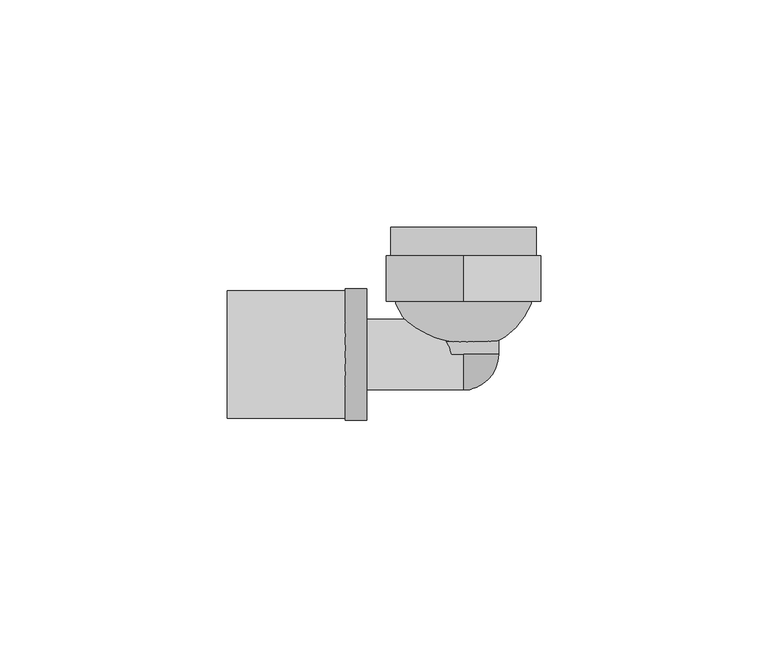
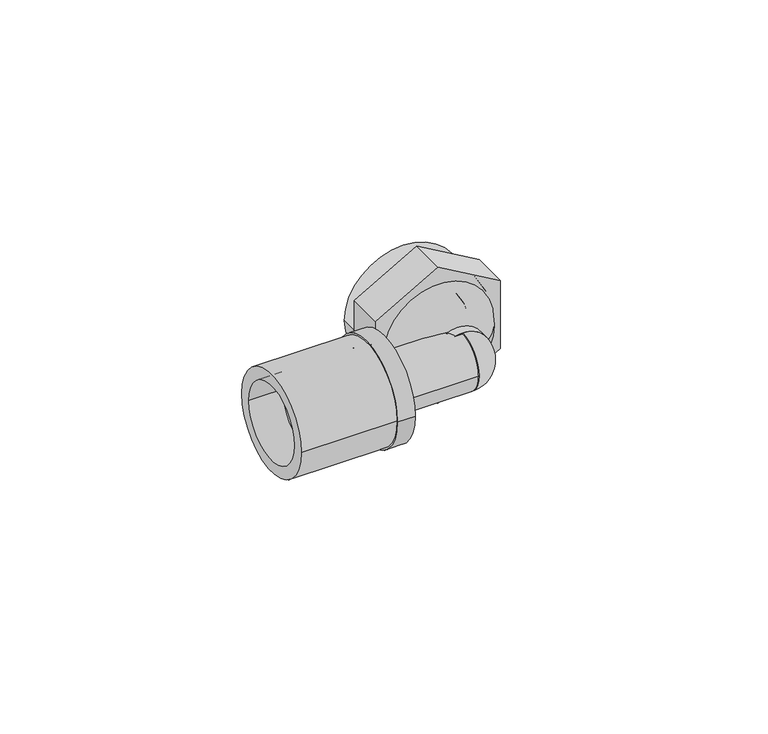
"""IFC4 building model written with IfcOpenShell, lengths in millimetres: pipe fitting geometry, FASTLOC_Elbow with female thread EX+ : FSL A internal AT."""

from ifc_helpers import new_model, si_unit, point, frame, origin, origin_2d, place, context, project, spatial, polyline, circle_curve, ellipse_curve, trimmed, segment, composite_curve, outline, extrude, source, transform, mapped, element, save
from ifc_brep_helpers import plane_surface, cylinder_surface, revolved_surface, advanced_brep


def pipe_fitting_2fdc1963(model_context):
    return source(origin(), model_context, "Body", "SolidModel", [
        extrude(outline(composite_curve([segment(trimmed(circle_curve(origin_2d(), 14.0), [point((14.0, 0.0))], [point((-14.0, 0.0))], False, "CARTESIAN"), True, "CONTINUOUS"), segment(trimmed(circle_curve(origin_2d(), 14.0), [point((-14.0, 0.0))], [point((14.0, 0.0))], False, "CARTESIAN"), True, "CONTINUOUS")], self_intersect=False), holes=[composite_curve([segment(trimmed(circle_curve(origin_2d(), 10.7), [point((10.7, 0.0))], [point((-10.7, 0.0))], True, "CARTESIAN"), True, "CONTINUOUS"), segment(trimmed(circle_curve(origin_2d(), 10.7), [point((-10.7, 0.0))], [point((10.7, 0.0))], True, "CARTESIAN"), True, "CONTINUOUS")], self_intersect=False)]), frame((-52.0, 0.0, 0.0), z_axis=(1.0, 0.0, 0.0), x_axis=(0.0, 1.0, 0.0)), (0.0, 0.0, 1.0), 26.0),
        advanced_brep(
        [(-26.0, -14.5, 0.0), (-26.0, 14.5, 0.0), (-21.3, 14.5, 0.0), (-21.3, -14.5, 0.0), (-43.0, -11.85, 0.0), (-43.0, 11.85, 0.0), (-26.0, 11.85, 0.0), (-26.0, -11.85, 0.0), (-21.3, -10.15, 0.0), (-21.3, 10.15, 0.0), (-43.0, 10.15, 0.0), (-43.0, -10.15, 0.0)],
        [
            (0, 1, circle_curve(frame((-26.0, 0.0, 0.0), z_axis=(1.0, 0.0, 0.0), x_axis=(0.0, 1.0, 0.0)), 14.5)),
            (1, 2),
            (2, 3, circle_curve(frame((-21.3, 0.0, 0.0), z_axis=(-1.0, 0.0, 0.0), x_axis=(0.0, 1.0, 0.0)), 14.5)),
            (3, 0),
            (4, 5, circle_curve(frame((-43.0, 0.0, 0.0), z_axis=(1.0, 0.0, 0.0), x_axis=(0.0, 1.0, 0.0)), 11.85)),
            (5, 6),
            (6, 7, circle_curve(frame((-26.0, 0.0, 0.0), z_axis=(-1.0, 0.0, 0.0), x_axis=(0.0, 1.0, 0.0)), 11.85)),
            (7, 4),
            (8, 9, circle_curve(frame((-21.3, 0.0, 0.0), z_axis=(1.0, 0.0, 0.0), x_axis=(0.0, 1.0, 0.0)), 10.15)),
            (9, 10),
            (10, 11, circle_curve(frame((-43.0, 0.0, 0.0), z_axis=(-1.0, 0.0, 0.0), x_axis=(0.0, 1.0, 0.0)), 10.15)),
            (11, 8),
            (1, 0, circle_curve(frame((-26.0, 0.0, 0.0), z_axis=(1.0, 0.0, 0.0), x_axis=(0.0, -1.0, 0.0)), 14.5)),
            (3, 2, circle_curve(frame((-21.3, 0.0, 0.0), z_axis=(-1.0, 0.0, 0.0), x_axis=(0.0, -1.0, 0.0)), 14.5)),
            (6, 7, circle_curve(frame((-26.0, 0.0, 0.0), z_axis=(1.0, 0.0, 0.0), x_axis=(0.0, -1.0, 0.0)), 11.85)),
            (5, 4, circle_curve(frame((-43.0, 0.0, 0.0), z_axis=(1.0, 0.0, 0.0), x_axis=(0.0, -1.0, 0.0)), 11.85)),
            (10, 11, circle_curve(frame((-43.0, 0.0, 0.0), z_axis=(1.0, 0.0, 0.0), x_axis=(0.0, -1.0, 0.0)), 10.15)),
            (9, 8, circle_curve(frame((-21.3, 0.0, 0.0), z_axis=(1.0, 0.0, 0.0), x_axis=(0.0, -1.0, 0.0)), 10.15)),
        ],
        [
            cylinder_surface(frame((-21.3, 0.0, 0.0), z_axis=(-1.0, 0.0, 0.0), x_axis=(0.0, 1.0, 0.0)), 14.5),
            cylinder_surface(frame((-21.3, 0.0, 0.0), z_axis=(-1.0, 0.0, 0.0), x_axis=(0.0, 1.0, 0.0)), 11.85),
            revolved_surface(polyline([(-43.0, 10.15, 0.0), (-21.3, 10.15, 0.0)]), (-21.3, 0.0, 0.0), (-1.0, 0.0, 0.0)),
            cylinder_surface(frame((-21.3, 0.0, 0.0), z_axis=(-1.0, 0.0, 0.0), x_axis=(0.0, -1.0, 0.0)), 14.5),
            plane_surface(frame((-26.0, 0.0, 0.0), z_axis=(-1.0, 0.0, 0.0), x_axis=(0.0, -1.0, 0.0))),
            cylinder_surface(frame((-21.3, 0.0, 0.0), z_axis=(-1.0, 0.0, 0.0), x_axis=(0.0, -1.0, 0.0)), 11.85),
            plane_surface(frame((-43.0, 0.0, 0.0), z_axis=(-1.0, 0.0, 0.0), x_axis=(0.0, -1.0, 0.0))),
            revolved_surface(polyline([(-43.0, -10.15, 0.0), (-21.3, -10.15, 0.0)]), (-21.3, 0.0, 0.0), (-1.0, 0.0, 0.0)),
            plane_surface(frame((-21.3, 0.0, 0.0), z_axis=(1.0, 0.0, 0.0), x_axis=(0.0, -1.0, 0.0))),
        ],
        [
            (0, [[1, 2, 3, 4]]),
            (1, [[5, 6, 7, 8]]),
            (2, [[9, 10, 11, 12]]),
            (3, [[13, -4, 14, -2]]),
            (4, [[-13, -1], [15, -7]]),
            (5, [[16, -8, -15, -6]]),
            (6, [[-16, -5], [17, -11]]),
            (7, [[18, -12, -17, -10]]),
            (8, [[-14, -3], [-18, -9]]),
        ],
    ),
        advanced_brep(
        [(0.0, 0.0, 7.75), (0.0, 0.0, 3.875), (0.0, -3.875, 0.0), (0.0, -7.75, 0.0), (0.0, 0.0, -7.75), (0.0, 0.0, -3.875)],
        [
            (0, 1),
            (1, 2, circle_curve(frame((0.0, 0.0, 0.0), z_axis=(1.0, 0.0, 0.0), x_axis=(0.0, 0.0, 1.0)), 3.875)),
            (2, 3),
            (3, 0, circle_curve(frame((0.0, 0.0, 0.0), z_axis=(-1.0, 0.0, 0.0), x_axis=(0.0, 0.0, 1.0)), 7.75)),
            (4, 3, circle_curve(frame((0.0, 0.0, 0.0), z_axis=(-1.0, 0.0, 0.0), x_axis=(0.0, 0.0, -1.0)), 7.75)),
            (2, 5, circle_curve(frame((0.0, 0.0, 0.0), z_axis=(1.0, 0.0, 0.0), x_axis=(0.0, 0.0, -1.0)), 3.875)),
            (5, 4),
            (5, 1, circle_curve(frame((0.0, 0.0, 0.0), z_axis=(0.0, -1.0, 0.0), x_axis=(0.0, 0.0, 1.0)), 3.875)),
            (0, 4, circle_curve(frame((0.0, 0.0, 0.0), z_axis=(0.0, 1.0, 0.0), x_axis=(0.0, 0.0, 1.0)), 7.75)),
        ],
        [
            plane_surface(frame((0.0, 0.0, 0.0), z_axis=(-1.0, 0.0, 0.0), x_axis=(0.0, 0.0, 1.0))),
            plane_surface(frame((0.0, 0.0, 0.0), z_axis=(-1.0, 0.0, 0.0), x_axis=(0.0, 0.0, -1.0))),
            plane_surface(frame((0.0, 0.0, 0.0), z_axis=(0.0, 1.0, 0.0), x_axis=(0.0, 0.0, 1.0))),
            revolved_surface(trimmed(ellipse_curve(frame((0.0, 0.0, 0.0), z_axis=(1.0, 0.0, 0.0), x_axis=(0.0, 0.0, 1.0)), 3.875, 3.875), [point((0.0, 0.0, 3.875))], [point((0.0, -3.875, 0.0))], True, "CARTESIAN"), (0.0, 0.0, 0.0), (0.0, 1.0, 0.0)),
            revolved_surface(trimmed(ellipse_curve(frame((0.0, 0.0, 0.0), z_axis=(-1.0, 0.0, 0.0), x_axis=(0.0, 0.0, 1.0)), 7.75, 7.75), [point((0.0, -7.75, 0.0))], [point((0.0, 0.0, 7.75))], True, "CARTESIAN"), (0.0, 0.0, 0.0), (0.0, 1.0, 0.0)),
        ],
        [
            (0, [[1, 2, 3, 4]]),
            (1, [[5, -3, 6, 7]]),
            (2, [[8, -1, 9, -7]]),
            (3, [[-2, -8, -6]]),
            (4, [[-9, -4, -5]]),
        ],
    ),
        extrude(outline(polyline([(-9.8149546, 17.0), (9.8149546, 17.0), (19.6299092, 0.0), (9.8149546, -17.0), (-9.8149546, -17.0), (-19.6299092, 0.0), (-9.8149546, 17.0)])), frame((0.0, 11.7, 0.0), z_axis=(0.0, 1.0, 0.0), x_axis=(0.0, 0.0, 1.0)), (0.0, 0.0, 1.0), 10.0),
        advanced_brep(
        [(0.5, 1.0078144, 0.0), (-0.5, 1.0078144, 0.0), (-16.0, 17.0, 0.0), (16.0, 17.0, 0.0), (0.5, 7.0125078, 0.0), (-0.5, 7.0125078, 0.0), (10.0, 17.0, 0.0), (-10.0, 17.0, 0.0), (10.0, 28.0, 0.0), (-10.0, 28.0, 0.0), (-16.0, 28.0, 0.0), (16.0, 28.0, 0.0)],
        [
            (0, 1, circle_curve(frame((0.0, 1.0078144, 0.0), z_axis=(0.0, 1.0, 0.0), x_axis=(-1.0, 0.0, 0.0)), 0.5)),
            (1, 2, circle_curve(frame((0.0, 17.0, 0.0), z_axis=(0.0, 0.0, -1.0), x_axis=(0.0, 1.0, 0.0)), 16.0)),
            (2, 3, circle_curve(frame((0.0, 17.0, 0.0), z_axis=(0.0, -1.0, 0.0), x_axis=(-1.0, 0.0, 0.0)), 16.0)),
            (3, 0, circle_curve(frame((0.0, 17.0, 0.0), z_axis=(0.0, 0.0, -1.0), x_axis=(0.0, 1.0, 0.0)), 16.0)),
            (4, 5, circle_curve(frame((0.0, 7.0125078, 0.0), z_axis=(0.0, 1.0, 0.0), x_axis=(-1.0, 0.0, 0.0)), 0.5)),
            (5, 1),
            (0, 4),
            (6, 7, circle_curve(frame((0.0, 17.0, 0.0), z_axis=(0.0, 1.0, 0.0), x_axis=(-1.0, 0.0, 0.0)), 10.0)),
            (7, 5, circle_curve(frame((0.0, 17.0, 0.0), z_axis=(0.0, 0.0, 1.0), x_axis=(0.0, 1.0, 0.0)), 10.0)),
            (4, 6, circle_curve(frame((0.0, 17.0, 0.0), z_axis=(0.0, 0.0, 1.0), x_axis=(0.0, 1.0, 0.0)), 10.0)),
            (8, 9, circle_curve(frame((0.0, 28.0, 0.0), z_axis=(0.0, 1.0, 0.0), x_axis=(-1.0, 0.0, 0.0)), 10.0)),
            (9, 7),
            (6, 8),
            (2, 10),
            (10, 11, circle_curve(frame((0.0, 28.0, 0.0), z_axis=(0.0, -1.0, 0.0), x_axis=(-1.0, 0.0, 0.0)), 16.0)),
            (11, 3),
            (1, 0, circle_curve(frame((0.0, 1.0078144, 0.0), z_axis=(0.0, 1.0, 0.0), x_axis=(1.0, 0.0, 0.0)), 0.5)),
            (3, 2, circle_curve(frame((0.0, 17.0, 0.0), z_axis=(0.0, -1.0, 0.0), x_axis=(1.0, 0.0, 0.0)), 16.0)),
            (5, 4, circle_curve(frame((0.0, 7.0125078, 0.0), z_axis=(0.0, 1.0, 0.0), x_axis=(1.0, 0.0, 0.0)), 0.5)),
            (7, 6, circle_curve(frame((0.0, 17.0, 0.0), z_axis=(0.0, 1.0, 0.0), x_axis=(1.0, 0.0, 0.0)), 10.0)),
            (9, 8, circle_curve(frame((0.0, 28.0, 0.0), z_axis=(0.0, 1.0, 0.0), x_axis=(1.0, 0.0, 0.0)), 10.0)),
            (10, 11, circle_curve(frame((0.0, 28.0, 0.0), z_axis=(0.0, 1.0, 0.0), x_axis=(1.0, 0.0, 0.0)), 16.0)),
        ],
        [
            revolved_surface(trimmed(ellipse_curve(frame((0.0, 17.0, 0.0), z_axis=(0.0, 0.0, 1.0), x_axis=(0.0, 1.0, 0.0)), 16.0, 16.0), [point((-16.0, 17.0, 0.0))], [point((-0.5, 1.0078144, 0.0))], True, "CARTESIAN"), (0.0, 11.7, 0.0), (0.0, -1.0, 0.0)),
            revolved_surface(polyline([(-0.5, 1.0078144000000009, 0.0), (-0.5, 7.0125078, 0.0)]), (0.0, 11.7, 0.0), (0.0, -1.0, 0.0)),
            revolved_surface(trimmed(ellipse_curve(frame((0.0, 17.0, 0.0), z_axis=(0.0, 0.0, -1.0), x_axis=(0.0, 1.0, 0.0)), 10.0, 10.0), [point((-0.5, 7.0125078, 0.0))], [point((-10.0, 17.0, 0.0))], True, "CARTESIAN"), (0.0, 11.7, 0.0), (0.0, -1.0, 0.0)),
            revolved_surface(polyline([(-10.0, 17.0, 0.0), (-10.0, 28.0, 0.0)]), (0.0, 11.7, 0.0), (0.0, -1.0, 0.0)),
            cylinder_surface(frame((0.0, 11.7, 0.0), z_axis=(0.0, -1.0, 0.0), x_axis=(-1.0, 0.0, 0.0)), 16.0),
            revolved_surface(trimmed(ellipse_curve(frame((0.0, 17.0, 0.0), z_axis=(0.0, 0.0, -1.0), x_axis=(0.0, 1.0, 0.0)), 16.0, 16.0), [point((16.0, 17.0, 0.0))], [point((0.5, 1.0078144, 0.0))], True, "CARTESIAN"), (0.0, 11.7, 0.0), (0.0, -1.0, 0.0)),
            revolved_surface(polyline([(0.5, 1.0078144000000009, 0.0), (0.5, 7.0125078, 0.0)]), (0.0, 11.7, 0.0), (0.0, -1.0, 0.0)),
            revolved_surface(trimmed(ellipse_curve(frame((0.0, 17.0, 0.0), z_axis=(0.0, 0.0, 1.0), x_axis=(0.0, 1.0, 0.0)), 10.0, 10.0), [point((0.5, 7.0125078, 0.0))], [point((10.0, 17.0, 0.0))], True, "CARTESIAN"), (0.0, 11.7, 0.0), (0.0, -1.0, 0.0)),
            revolved_surface(polyline([(10.0, 17.0, 0.0), (10.0, 28.0, 0.0)]), (0.0, 11.7, 0.0), (0.0, -1.0, 0.0)),
            plane_surface(frame((0.0, 28.0, 0.0), z_axis=(0.0, 1.0, 0.0), x_axis=(1.0, 0.0, 0.0))),
            cylinder_surface(frame((0.0, 11.7, 0.0), z_axis=(0.0, -1.0, 0.0), x_axis=(1.0, 0.0, 0.0)), 16.0),
        ],
        [
            (0, [[1, 2, 3, 4]]),
            (1, [[5, 6, -1, 7]]),
            (2, [[8, 9, -5, 10]]),
            (3, [[11, 12, -8, 13]]),
            (4, [[-3, 14, 15, 16]]),
            (5, [[17, -4, 18, -2]]),
            (6, [[19, -7, -17, -6]]),
            (7, [[20, -10, -19, -9]]),
            (8, [[21, -13, -20, -12]]),
            (9, [[22, -15], [-21, -11]]),
            (10, [[-18, -16, -22, -14]]),
        ],
    ),
        extrude(outline(composite_curve([segment(trimmed(circle_curve(origin_2d(), 7.75), [point((0.0, -7.75))], [point((0.0, 7.75))], False, "CARTESIAN"), True, "CONTINUOUS"), segment(trimmed(circle_curve(origin_2d(), 7.75), [point((0.0, 7.75))], [point((0.0, -7.75))], False, "CARTESIAN"), True, "CONTINUOUS")], self_intersect=False), holes=[composite_curve([segment(trimmed(circle_curve(origin_2d(), 5.75), [point((0.0, -5.75))], [point((0.0, 5.75))], True, "CARTESIAN"), True, "CONTINUOUS"), segment(trimmed(circle_curve(origin_2d(), 5.75), [point((0.0, 5.75))], [point((0.0, -5.75))], True, "CARTESIAN"), True, "CONTINUOUS")], self_intersect=False)]), frame((0.0, 0.0, 0.0), z_axis=(0.0, 1.0, 0.0), x_axis=(0.0, 0.0, 1.0)), (0.0, 0.0, 1.0), 11.7),
        advanced_brep(
        [(-26.0, 7.75, 0.0), (-26.0, -7.75, 0.0), (-43.4, -7.75, 0.0), (-43.4, 7.75, 0.0), (-23.3, 8.8, 0.0), (-23.3, -8.8, 0.0), (-26.0, -8.8, 0.0), (-26.0, 8.8, 0.0), (0.0, 7.75, 0.0), (0.0, -7.75, 0.0), (-23.3, -7.75, 0.0), (-23.3, 7.75, 0.0), (-43.4, 5.75, 0.0), (-43.4, -5.75, 0.0), (0.0, -5.75, 0.0), (0.0, 5.75, 0.0)],
        [
            (0, 1, circle_curve(frame((-26.0, 0.0, 0.0), z_axis=(-1.0, 0.0, 0.0), x_axis=(0.0, -1.0, 0.0)), 7.75)),
            (1, 2),
            (2, 3, circle_curve(frame((-43.4, 0.0, 0.0), z_axis=(1.0, 0.0, 0.0), x_axis=(0.0, -1.0, 0.0)), 7.75)),
            (3, 0),
            (4, 5, circle_curve(frame((-23.3, 0.0, 0.0), z_axis=(-1.0, 0.0, 0.0), x_axis=(0.0, -1.0, 0.0)), 8.8)),
            (5, 6),
            (6, 7, circle_curve(frame((-26.0, 0.0, 0.0), z_axis=(1.0, 0.0, 0.0), x_axis=(0.0, -1.0, 0.0)), 8.8)),
            (7, 4),
            (8, 9, circle_curve(frame((0.0, 0.0, 0.0), z_axis=(-1.0, 0.0, 0.0), x_axis=(0.0, -1.0, 0.0)), 7.75)),
            (9, 10),
            (10, 11, circle_curve(frame((-23.3, 0.0, 0.0), z_axis=(1.0, 0.0, 0.0), x_axis=(0.0, -1.0, 0.0)), 7.75)),
            (11, 8),
            (12, 13, circle_curve(frame((-43.4, 0.0, 0.0), z_axis=(-1.0, 0.0, 0.0), x_axis=(0.0, -1.0, 0.0)), 5.75)),
            (13, 14),
            (14, 15, circle_curve(frame((0.0, 0.0, 0.0), z_axis=(1.0, 0.0, 0.0), x_axis=(0.0, -1.0, 0.0)), 5.75)),
            (15, 12),
            (2, 3, circle_curve(frame((-43.4, 0.0, 0.0), z_axis=(-1.0, 0.0, 0.0), x_axis=(0.0, 1.0, 0.0)), 7.75)),
            (12, 13, circle_curve(frame((-43.4, 0.0, 0.0), z_axis=(1.0, 0.0, 0.0), x_axis=(0.0, 1.0, 0.0)), 5.75)),
            (1, 0, circle_curve(frame((-26.0, 0.0, 0.0), z_axis=(-1.0, 0.0, 0.0), x_axis=(0.0, 1.0, 0.0)), 7.75)),
            (6, 7, circle_curve(frame((-26.0, 0.0, 0.0), z_axis=(-1.0, 0.0, 0.0), x_axis=(0.0, 1.0, 0.0)), 8.8)),
            (5, 4, circle_curve(frame((-23.3, 0.0, 0.0), z_axis=(-1.0, 0.0, 0.0), x_axis=(0.0, 1.0, 0.0)), 8.8)),
            (10, 11, circle_curve(frame((-23.3, 0.0, 0.0), z_axis=(-1.0, 0.0, 0.0), x_axis=(0.0, 1.0, 0.0)), 7.75)),
            (9, 8, circle_curve(frame((0.0, 0.0, 0.0), z_axis=(-1.0, 0.0, 0.0), x_axis=(0.0, 1.0, 0.0)), 7.75)),
            (14, 15, circle_curve(frame((0.0, 0.0, 0.0), z_axis=(-1.0, 0.0, 0.0), x_axis=(0.0, 1.0, 0.0)), 5.75)),
        ],
        [
            cylinder_surface(frame((0.0, 0.0, 0.0), z_axis=(1.0, 0.0, 0.0), x_axis=(0.0, -1.0, 0.0)), 7.75),
            cylinder_surface(frame((0.0, 0.0, 0.0), z_axis=(1.0, 0.0, 0.0), x_axis=(0.0, -1.0, 0.0)), 8.8),
            revolved_surface(polyline([(0.0, -5.75, 0.0), (-43.4, -5.75, 0.0)]), (0.0, 0.0, 0.0), (1.0, 0.0, 0.0)),
            plane_surface(frame((-43.4, 0.0, 0.0), z_axis=(-1.0, 0.0, 0.0), x_axis=(0.0, 1.0, 0.0))),
            cylinder_surface(frame((0.0, 0.0, 0.0), z_axis=(1.0, 0.0, 0.0), x_axis=(0.0, 1.0, 0.0)), 7.75),
            plane_surface(frame((-26.0, 0.0, 0.0), z_axis=(-1.0, 0.0, 0.0), x_axis=(0.0, 1.0, 0.0))),
            cylinder_surface(frame((0.0, 0.0, 0.0), z_axis=(1.0, 0.0, 0.0), x_axis=(0.0, 1.0, 0.0)), 8.8),
            plane_surface(frame((-23.3, 0.0, 0.0), z_axis=(1.0, 0.0, 0.0), x_axis=(0.0, 1.0, 0.0))),
            plane_surface(frame((0.0, 0.0, 0.0), z_axis=(1.0, 0.0, 0.0), x_axis=(0.0, 1.0, 0.0))),
            revolved_surface(polyline([(0.0, 5.75, 0.0), (-43.4, 5.75, 0.0)]), (0.0, 0.0, 0.0), (1.0, 0.0, 0.0)),
        ],
        [
            (0, [[1, 2, 3, 4]]),
            (1, [[5, 6, 7, 8]]),
            (0, [[9, 10, 11, 12]]),
            (2, [[13, 14, 15, 16]]),
            (3, [[17, -3], [18, -13]]),
            (4, [[19, -4, -17, -2]]),
            (5, [[20, -7], [-19, -1]]),
            (6, [[21, -8, -20, -6]]),
            (7, [[-21, -5], [22, -11]]),
            (4, [[23, -12, -22, -10]]),
            (8, [[-23, -9], [24, -15]]),
            (9, [[-18, -16, -24, -14]]),
        ],
    ),
    ])


if __name__ == "__main__":
    model = new_model("IFC4")
    model_context = context("Model", 3, world=origin())
    ifc_project = project(units=[si_unit("LENGTHUNIT", "METRE", prefix="MILLI")], contexts=[model_context])
    site = spatial("IfcSite", under=ifc_project)
    building = spatial("IfcBuilding", under=site)
    placement = place(None, origin())
    pipe_fitting_shape = pipe_fitting_2fdc1963(model_context)
    element("IfcPipeFitting", 1, ObjectType="FASTLOC_Elbow with female thread EX+ : FSL A internal AT", at=placement, inside=building, context=model_context, shape_type="MappedRepresentation", body=[
        mapped(pipe_fitting_shape, transform((0.0, 0.0, 0.0), x_axis=(1.0, 0.0, 0.0), y_axis=(0.0, 1.0, 0.0), z_axis=(0.0, 0.0, 1.0))),
    ])
    save(model, "model.ifc")
